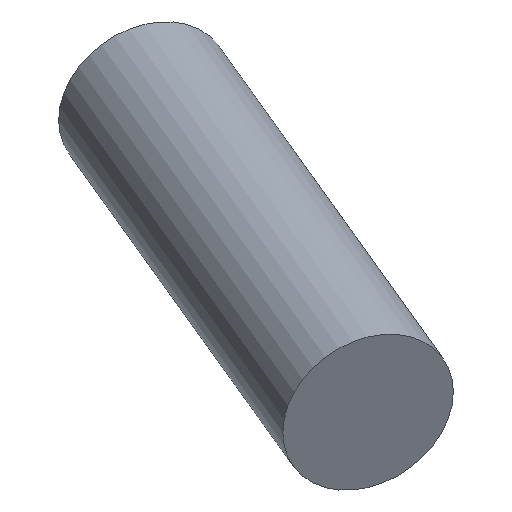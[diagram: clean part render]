
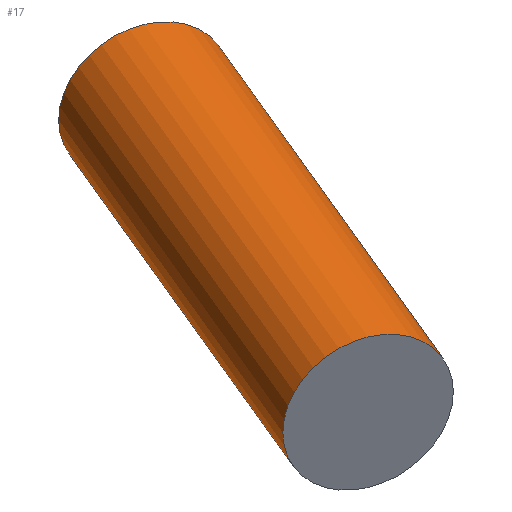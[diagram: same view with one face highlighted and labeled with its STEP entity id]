
A CAD part, isometric view. The second image highlights one B-rep face of the part: STEP entity #17.
In plain terms, the highlighted cylindrical face has radius 0.63 mm (diameter 1.26 mm), a full revolution.
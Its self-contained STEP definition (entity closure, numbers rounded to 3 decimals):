
#17 = ADVANCED_FACE('',(#18),#31,.T.);
#18 = FACE_BOUND('',#19,.T.);
#19 = EDGE_LOOP('',(#20,#54,#77,#104));
#20 = ORIENTED_EDGE('',*,*,#21,.F.);
#21 = EDGE_CURVE('',#22,#22,#24,.T.);
#22 = VERTEX_POINT('',#23);
#23 = CARTESIAN_POINT('',(2.105,5.081,12.18));
#24 = SURFACE_CURVE('',#25,(#30,#42),.PCURVE_S1.);
#25 = CIRCLE('',#26,0.63);
#26 = AXIS2_PLACEMENT_3D('',#27,#28,#29);
#27 = CARTESIAN_POINT('',(2.105,5.081,11.55));
#28 = DIRECTION('',(0.383,0.924,-0.));
#29 = DIRECTION('',(0.,0.,1.));
#30 = PCURVE('',#31,#36);
#31 = CYLINDRICAL_SURFACE('',#32,0.63);
#32 = AXIS2_PLACEMENT_3D('',#33,#34,#35);
#33 = CARTESIAN_POINT('',(0.574,1.386,11.55));
#34 = DIRECTION('',(0.383,0.924,0.));
#35 = DIRECTION('',(0.,0.,1.));
#36 = DEFINITIONAL_REPRESENTATION('',(#37),#41);
#37 = LINE('',#38,#39);
#38 = CARTESIAN_POINT('',(0.,4.));
#39 = VECTOR('',#40,1.);
#40 = DIRECTION('',(1.,0.));
#41 = ( GEOMETRIC_REPRESENTATION_CONTEXT(2) 
PARAMETRIC_REPRESENTATION_CONTEXT() REPRESENTATION_CONTEXT('2D SPACE',''
  ) );
#42 = PCURVE('',#43,#48);
#43 = PLANE('',#44);
#44 = AXIS2_PLACEMENT_3D('',#45,#46,#47);
#45 = CARTESIAN_POINT('',(2.105,5.081,11.55));
#46 = DIRECTION('',(0.383,0.924,0.));
#47 = DIRECTION('',(0.,0.,1.));
#48 = DEFINITIONAL_REPRESENTATION('',(#49),#53);
#49 = CIRCLE('',#50,0.63);
#50 = AXIS2_PLACEMENT_2D('',#51,#52);
#51 = CARTESIAN_POINT('',(0.,0.));
#52 = DIRECTION('',(1.,0.));
#53 = ( GEOMETRIC_REPRESENTATION_CONTEXT(2) 
PARAMETRIC_REPRESENTATION_CONTEXT() REPRESENTATION_CONTEXT('2D SPACE',''
  ) );
#54 = ORIENTED_EDGE('',*,*,#55,.F.);
#55 = EDGE_CURVE('',#56,#22,#58,.T.);
#56 = VERTEX_POINT('',#57);
#57 = CARTESIAN_POINT('',(0.574,1.386,12.18));
#58 = SEAM_CURVE('',#59,(#63,#70),.PCURVE_S1.);
#59 = LINE('',#60,#61);
#60 = CARTESIAN_POINT('',(0.574,1.386,12.18));
#61 = VECTOR('',#62,1.);
#62 = DIRECTION('',(0.383,0.924,0.));
#63 = PCURVE('',#31,#64);
#64 = DEFINITIONAL_REPRESENTATION('',(#65),#69);
#65 = LINE('',#66,#67);
#66 = CARTESIAN_POINT('',(6.283,-0.));
#67 = VECTOR('',#68,1.);
#68 = DIRECTION('',(0.,1.));
#69 = ( GEOMETRIC_REPRESENTATION_CONTEXT(2) 
PARAMETRIC_REPRESENTATION_CONTEXT() REPRESENTATION_CONTEXT('2D SPACE',''
  ) );
#70 = PCURVE('',#31,#71);
#71 = DEFINITIONAL_REPRESENTATION('',(#72),#76);
#72 = LINE('',#73,#74);
#73 = CARTESIAN_POINT('',(0.,-0.));
#74 = VECTOR('',#75,1.);
#75 = DIRECTION('',(0.,1.));
#76 = ( GEOMETRIC_REPRESENTATION_CONTEXT(2) 
PARAMETRIC_REPRESENTATION_CONTEXT() REPRESENTATION_CONTEXT('2D SPACE',''
  ) );
#77 = ORIENTED_EDGE('',*,*,#78,.T.);
#78 = EDGE_CURVE('',#56,#56,#79,.T.);
#79 = SURFACE_CURVE('',#80,(#85,#92),.PCURVE_S1.);
#80 = CIRCLE('',#81,0.63);
#81 = AXIS2_PLACEMENT_3D('',#82,#83,#84);
#82 = CARTESIAN_POINT('',(0.574,1.386,11.55));
#83 = DIRECTION('',(0.383,0.924,-0.));
#84 = DIRECTION('',(0.,0.,1.));
#85 = PCURVE('',#31,#86);
#86 = DEFINITIONAL_REPRESENTATION('',(#87),#91);
#87 = LINE('',#88,#89);
#88 = CARTESIAN_POINT('',(0.,0.));
#89 = VECTOR('',#90,1.);
#90 = DIRECTION('',(1.,0.));
#91 = ( GEOMETRIC_REPRESENTATION_CONTEXT(2) 
PARAMETRIC_REPRESENTATION_CONTEXT() REPRESENTATION_CONTEXT('2D SPACE',''
  ) );
#92 = PCURVE('',#93,#98);
#93 = PLANE('',#94);
#94 = AXIS2_PLACEMENT_3D('',#95,#96,#97);
#95 = CARTESIAN_POINT('',(0.574,1.386,11.55));
#96 = DIRECTION('',(0.383,0.924,0.));
#97 = DIRECTION('',(0.,0.,1.));
#98 = DEFINITIONAL_REPRESENTATION('',(#99),#103);
#99 = CIRCLE('',#100,0.63);
#100 = AXIS2_PLACEMENT_2D('',#101,#102);
#101 = CARTESIAN_POINT('',(0.,0.));
#102 = DIRECTION('',(1.,0.));
#103 = ( GEOMETRIC_REPRESENTATION_CONTEXT(2) 
PARAMETRIC_REPRESENTATION_CONTEXT() REPRESENTATION_CONTEXT('2D SPACE',''
  ) );
#104 = ORIENTED_EDGE('',*,*,#55,.T.);
